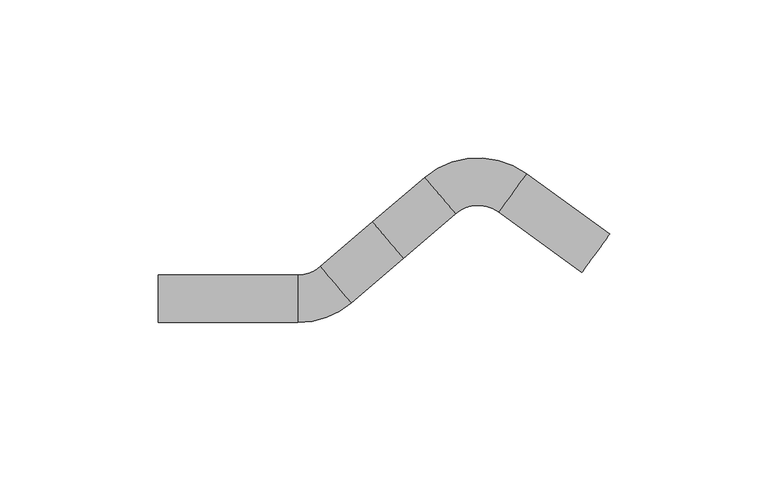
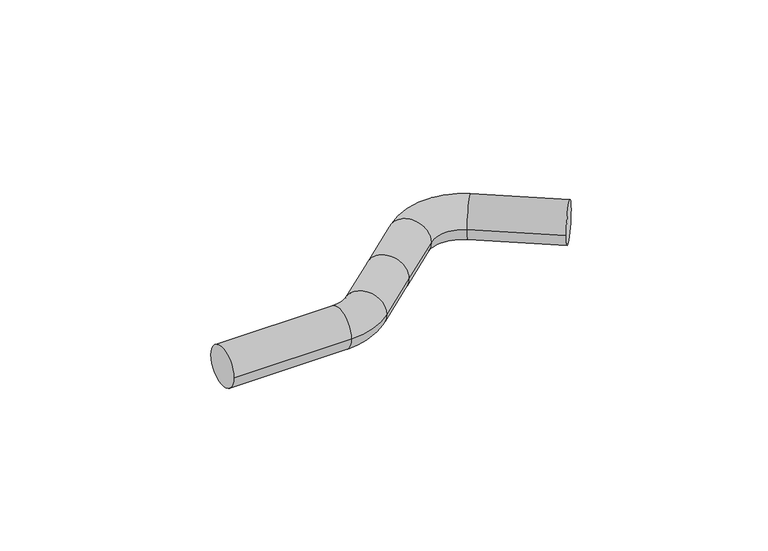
"""IFC4 building model written with IfcOpenShell, lengths in millimetres: pipe fitting geometry, KAN-therm Inox obejście : KAN-therm Inox obejście."""

from ifc_helpers import new_model, si_unit, point, frame, origin, place, context, project, spatial, circle_curve, ellipse_curve, trimmed, source, transform, mapped, element, save
from ifc_brep_helpers import plane_surface, cylinder_surface, revolved_surface, advanced_brep


def pipe_fitting_00fbd71d(model_context):
    return source(origin(), model_context, "Body", "AdvancedBrep", [
        advanced_brep(
        [(0.0, -7.5, 0.0), (0.0, 7.5, 0.0), (44.0, -7.5, 0.0), (44.0, 7.5, 0.0), (51.1403509, 10.1324801, 0.0), (60.877193, -1.2777743, 0.0), (77.3684211, 12.7948728, 0.0), (67.6315789, 24.2051272, 0.0), (93.8596491, 26.8675199, 0.0), (84.122807, 38.2777743, 0.0), (116.2687783, 39.5443439, 0.0), (107.4598677, 27.4033763, 0.0), (133.7652976, 8.3174034, 0.0), (142.5742081, 20.458371, 0.0)],
        [
            (0, 1, circle_curve(frame((0.0, 0.0, 0.0), z_axis=(-1.0, 0.0, 0.0), x_axis=(0.0, 1.0, 0.0)), 7.5)),
            (1, 0, circle_curve(frame((0.0, 0.0, 0.0), z_axis=(-1.0, 0.0, 0.0), x_axis=(0.0, 1.0, 0.0)), 7.5)),
            (0, 2),
            (2, 3, circle_curve(frame((44.0, 0.0, 0.0), z_axis=(-1.0, 0.0, 0.0), x_axis=(0.0, 1.0, 0.0)), 7.5)),
            (3, 1),
            (3, 2, circle_curve(frame((44.0, 0.0, 0.0), z_axis=(-1.0, 0.0, 0.0), x_axis=(0.0, 1.0, 0.0)), 7.5)),
            (4, 3, circle_curve(frame((44.0, 18.5, 0.0), z_axis=(0.0, 0.0, -1.0), x_axis=(0.0, -1.0, 0.0)), 11.0)),
            (2, 5, circle_curve(frame((44.0, 18.5, 0.0), z_axis=(0.0, 0.0, 1.0), x_axis=(0.0, -1.0, 0.0)), 26.0)),
            (5, 4, circle_curve(frame((56.0087719, 4.4273529, 0.0), z_axis=(-0.7606836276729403, -0.649122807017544, 0.0), x_axis=(-0.649122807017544, 0.7606836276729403, 0.0)), 7.5)),
            (4, 5, circle_curve(frame((56.0087719, 4.4273529, 0.0), z_axis=(-0.7606836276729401, -0.6491228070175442, 0.0), x_axis=(-0.6491228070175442, 0.7606836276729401, 0.0)), 7.5)),
            (5, 6),
            (6, 7, circle_curve(frame((72.5, 18.5, 0.0), z_axis=(-0.7606836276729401, -0.6491228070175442, 0.0), x_axis=(-0.6491228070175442, 0.7606836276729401, 0.0)), 7.5)),
            (7, 4),
            (7, 6, circle_curve(frame((72.5, 18.5, 0.0), z_axis=(-0.7606836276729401, -0.6491228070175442, 0.0), x_axis=(-0.6491228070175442, 0.7606836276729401, 0.0)), 7.5)),
            (6, 8),
            (8, 9, circle_curve(frame((88.9912281, 32.5726471, 0.0), z_axis=(-0.7606836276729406, -0.6491228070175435, 0.0), x_axis=(-0.6491228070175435, 0.7606836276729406, 0.0)), 7.5)),
            (9, 7),
            (9, 8, circle_curve(frame((88.9912281, 32.5726471, 0.0), z_axis=(-0.7606836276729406, -0.6491228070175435, 0.0), x_axis=(-0.6491228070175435, 0.7606836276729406, 0.0)), 7.5)),
            (10, 9, circle_curve(frame((101.0, 18.5, 0.0), z_axis=(0.0, 0.0, 1.0), x_axis=(-0.6491228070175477, 0.7606836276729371, 0.0)), 26.0)),
            (8, 11, circle_curve(frame((101.0, 18.5, 0.0), z_axis=(0.0, 0.0, -1.0), x_axis=(-0.6491228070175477, 0.7606836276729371, 0.0)), 11.0)),
            (11, 10, circle_curve(frame((111.864323, 33.4738601, 0.0), z_axis=(-0.8093978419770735, 0.5872607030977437, 0.0), x_axis=(0.5872607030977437, 0.8093978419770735, 0.0)), 7.5)),
            (10, 11, circle_curve(frame((111.864323, 33.4738601, 0.0), z_axis=(-0.8093978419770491, 0.5872607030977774, 0.0), x_axis=(0.5872607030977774, 0.8093978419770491, 0.0)), 7.5)),
            (12, 13, circle_curve(frame((138.1697529, 14.3878872, 0.0), z_axis=(0.8093978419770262, -0.587260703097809, 0.0), x_axis=(0.587260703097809, 0.8093978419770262, 0.0)), 7.5)),
            (13, 12, circle_curve(frame((138.1697529, 14.3878872, 0.0), z_axis=(0.8093978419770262, -0.587260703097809, 0.0), x_axis=(0.587260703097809, 0.8093978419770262, 0.0)), 7.5)),
            (11, 12),
            (13, 10),
        ],
        [
            plane_surface(frame((0.0, 0.0, 0.0), z_axis=(-1.0, 0.0, 0.0), x_axis=(0.0, 0.0, 1.0))),
            cylinder_surface(frame((0.0, 0.0, 0.0), z_axis=(-1.0, 0.0, 0.0), x_axis=(0.0, 1.0, 0.0)), 7.5),
            revolved_surface(trimmed(ellipse_curve(frame((44.0, 0.0, 0.0), z_axis=(-1.0, 0.0, 0.0), x_axis=(0.0, 1.0, 0.0)), 7.5, 7.5), [point((44.0, -7.5, 0.0))], [point((44.0, 7.5, 0.0))], True, "CARTESIAN"), (44.0, 18.5, 0.0), (0.0, 0.0, 1.0)),
            revolved_surface(trimmed(ellipse_curve(frame((44.0, 0.0, 0.0), z_axis=(-1.0, 0.0, 0.0), x_axis=(0.0, 1.0, 0.0)), 7.5, 7.5), [point((44.0, 7.5, 0.0))], [point((44.0, -7.5, 0.0))], True, "CARTESIAN"), (44.0, 18.5, 0.0), (0.0, 0.0, 1.0)),
            cylinder_surface(frame((56.0087719, 4.4273529, 0.0), z_axis=(-0.7606836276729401, -0.6491228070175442, 0.0), x_axis=(-0.6491228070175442, 0.7606836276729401, 0.0)), 7.5),
            cylinder_surface(frame((72.5, 18.5, 0.0), z_axis=(-0.7606836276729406, -0.6491228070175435, 0.0), x_axis=(-0.6491228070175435, 0.7606836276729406, 0.0)), 7.5),
            revolved_surface(trimmed(ellipse_curve(frame((88.9912281, 32.5726471, 0.0), z_axis=(-0.7606836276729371, -0.6491228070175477, 0.0), x_axis=(-0.6491228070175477, 0.7606836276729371, 0.0)), 7.5, 7.5), [point((93.8596491, 26.8675199, 0.0))], [point((84.122807, 38.2777743, 0.0))], True, "CARTESIAN"), (101.0, 18.5, 0.0), (0.0, 0.0, -1.0)),
            revolved_surface(trimmed(ellipse_curve(frame((88.9912281, 32.5726471, 0.0), z_axis=(-0.7606836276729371, -0.6491228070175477, 0.0), x_axis=(-0.6491228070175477, 0.7606836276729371, 0.0)), 7.5, 7.5), [point((84.122807, 38.2777743, 0.0))], [point((93.8596491, 26.8675199, 0.0))], True, "CARTESIAN"), (101.0, 18.5, 0.0), (0.0, 0.0, -1.0)),
            plane_surface(frame((138.1697529, 14.3878872, 0.0), z_axis=(0.8093978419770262, -0.587260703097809, 0.0), x_axis=(0.0, 0.0, 1.0))),
            cylinder_surface(frame((111.864323, 33.4738601, 0.0), z_axis=(-0.8093978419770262, 0.587260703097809, 0.0), x_axis=(0.587260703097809, 0.8093978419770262, 0.0)), 7.5),
        ],
        [
            (0, [[1, 2]]),
            (1, [[-1, 3, 4, 5]]),
            (1, [[-2, -5, 6, -3]]),
            (2, [[7, -4, 8, 9]]),
            (3, [[-8, -6, -7, 10]]),
            (4, [[-9, 11, 12, 13]]),
            (4, [[-10, -13, 14, -11]]),
            (5, [[-12, 15, 16, 17]]),
            (5, [[-14, -17, 18, -15]]),
            (6, [[19, -16, 20, 21]]),
            (7, [[-20, -18, -19, 22]]),
            (8, [[23, 24]]),
            (9, [[-21, 25, -24, 26]]),
            (9, [[-22, -26, -23, -25]]),
        ],
    ),
    ])


if __name__ == "__main__":
    model = new_model("IFC4")
    model_context = context("Model", 3, world=origin())
    ifc_project = project(units=[si_unit("LENGTHUNIT", "METRE", prefix="MILLI")], contexts=[model_context])
    site = spatial("IfcSite", under=ifc_project)
    building = spatial("IfcBuilding", under=site)
    placement = place(None, origin())
    pipe_fitting_shape = pipe_fitting_00fbd71d(model_context)
    element("IfcPipeFitting", 1, ObjectType="KAN-therm Inox obejście : KAN-therm Inox obejście", at=placement, inside=building, context=model_context, shape_type="MappedRepresentation", body=[
        mapped(pipe_fitting_shape, transform((0.0, 0.0, 0.0), x_axis=(1.0, 0.0, 0.0), y_axis=(0.0, 1.0, 0.0), z_axis=(0.0, 0.0, 1.0))),
    ])
    save(model, "model.ifc")
